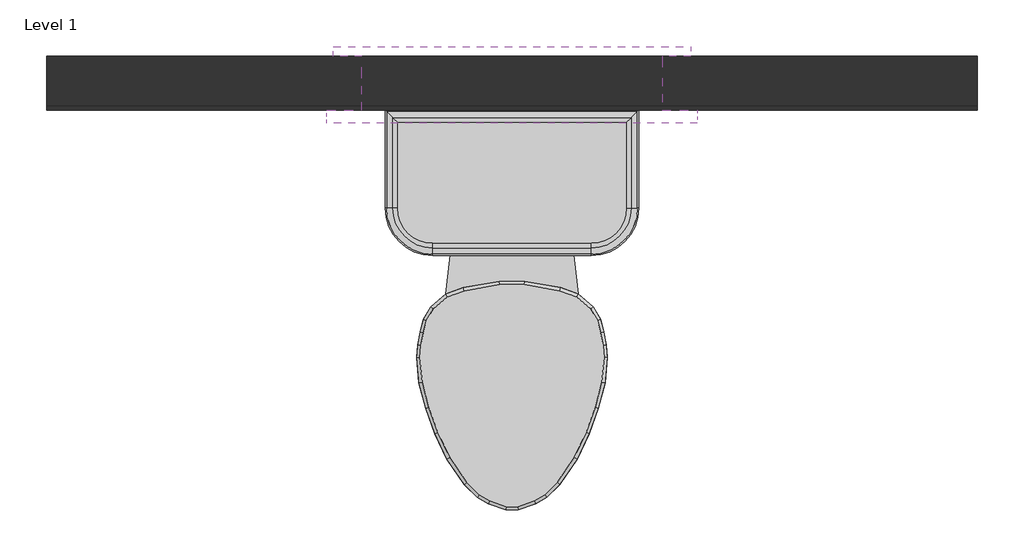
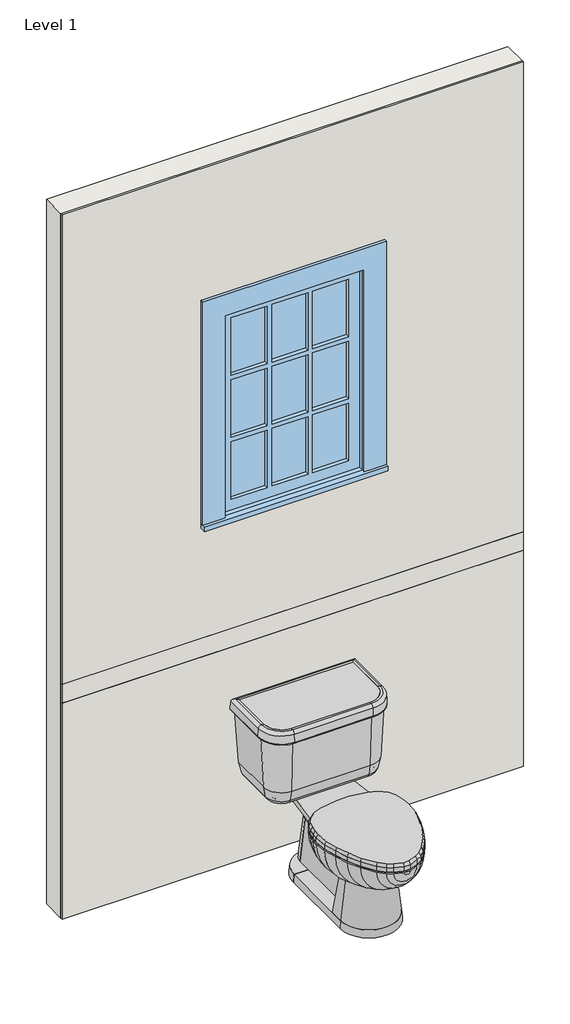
# One storey: 1 flow terminal, 1 wall, 1 window.
"""IFC4 building model written with IfcOpenShell, lengths in millimetres."""

from ifc_helpers import new_model, si_unit, frame, origin, origin_with_axes, place, context, project, spatial, polyline, outline, extrude, transform, mapped, element, save
from components import m_toilet_domestic_3d_m_toilet_domestic_3d_5cb52bd4, m_toilet_domestic_3d_m_toilet_domestic_3d_183bbd19, m_casement_3x3_with_trim_0915_x_1220mm_2_c26879e4

model = new_model("IFC4")

# Units and contexts
model_context = context("Model", 3, world=origin())
ifc_project = project(units=[si_unit("LENGTHUNIT", "METRE", prefix="MILLI")], contexts=[model_context])

# Site, building, storey
site = spatial("IfcSite", under=ifc_project)
building = spatial("IfcBuilding", under=site)
storey = spatial("IfcBuildingStorey", under=building, Name="Level 1", Elevation=0.0)

# Flow terminal
placement = place(None, origin())
m_toilet_domestic_3d_m_toilet_domestic_3d_shape = m_toilet_domestic_3d_m_toilet_domestic_3d_5cb52bd4(model_context)
m_toilet_domestic_3d_m_toilet_domestic_3d_2_shape = m_toilet_domestic_3d_m_toilet_domestic_3d_183bbd19(model_context)
element("IfcFlowTerminal", 1, ObjectType="M_Toilet-Domestic-3D : M_Toilet-Domestic-3D", at=placement, inside=storey, context=model_context, shape_type="MappedRepresentation", body=[
    mapped(m_toilet_domestic_3d_m_toilet_domestic_3d_shape, transform((804.8508857, -812.3934315, 0.0), x_axis=(1.0, 0.0, 0.0), y_axis=(0.0, 1.0, 0.0), z_axis=(0.0, 0.0, 1.0))),
    mapped(m_toilet_domestic_3d_m_toilet_domestic_3d_2_shape, transform((804.8508857, -812.3934315, 0.0), x_axis=(1.0, 0.0, 0.0), y_axis=(0.0, 1.0, 0.0), z_axis=(0.0, 0.0, 1.0))),
])

# Wall
element("IfcWall", 2, ObjectType="Duvar", at=placement, inside=storey, context=model_context, shape_type="SweptSolid", body=[
    extrude(outline(polyline([(1734.8508857, -317.6974041), (-125.1491143, -317.6974041), (-125.1491143, -309.6974041), (1734.8508857, -309.6974041), (1734.8508857, -317.6974041)])), origin_with_axes(), (0.0, 0.0, 1.0), 920.0),
    extrude(outline(polyline([(3000.0, 1734.8508857), (3000.0, -125.1491143), (1000.0, -125.1491143), (1000.0, 1734.8508857), (3000.0, 1734.8508857)]), holes=[polyline([(2369.8880541, 504.8508857), (2369.8880541, 1104.8508857), (1469.8880541, 1104.8508857), (1469.8880541, 504.8508857), (2369.8880541, 504.8508857)])]), frame((0.0, -317.6974041, 0.0), z_axis=(0.0, 1.0, 0.0), x_axis=(0.0, 0.0, 1.0)), (0.0, 0.0, 1.0), 8.0),
    extrude(outline(polyline([(1734.8508857, -309.6974041), (1734.8508857, -317.6974041), (-125.1491143, -317.6974041), (-125.1491143, -309.6974041), (1734.8508857, -309.6974041)])), frame((0.0, 0.0, 920.0), z_axis=(0.0, 0.0, 1.0), x_axis=(1.0, 0.0, 0.0)), (0.0, 0.0, 1.0), 80.0),
    extrude(outline(polyline([(0.0, -125.1491143), (0.0, 1734.8508857), (3000.0, 1734.8508857), (3000.0, -125.1491143), (0.0, -125.1491143)]), holes=[polyline([(1469.8880541, 504.8508857), (2369.8880541, 504.8508857), (2369.8880541, 1104.8508857), (1469.8880541, 1104.8508857), (1469.8880541, 504.8508857)])]), frame((0.0, -309.6974041, 0.0), z_axis=(0.0, 1.0, 0.0), x_axis=(0.0, 0.0, 1.0)), (0.0, 0.0, 1.0), 100.0),
])

# Window
m_casement_3x3_with_trim_0915_x_1220mm_2_shape = m_casement_3x3_with_trim_0915_x_1220mm_2_c26879e4(model_context)
element("IfcWindow", 3, ObjectType="M_Casement 3x3 with Trim : 0915 x 1220mm 2", at=placement, inside=storey, context=model_context, shape_type="MappedRepresentation", body=[
    mapped(m_casement_3x3_with_trim_0915_x_1220mm_2_shape, transform((804.8508857, -263.6974041, 554.8880541), x_axis=(-1.0, 0.0, 0.0), y_axis=(0.0, -1.0, 0.0), z_axis=(0.0, 0.0, 1.0))),
])

save(model, "model.ifc")
